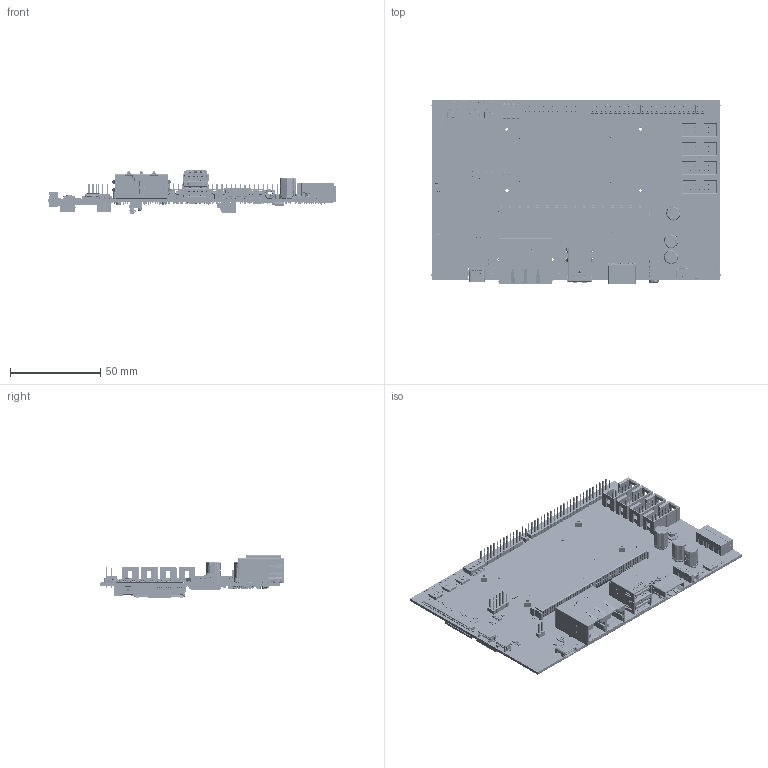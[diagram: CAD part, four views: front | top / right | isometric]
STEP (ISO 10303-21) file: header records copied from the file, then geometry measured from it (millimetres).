
FILE_DESCRIPTION(/* description */ ('PCB Design'),/* implementation_level */ '2;1');
FILE_NAME(/* name */ 'FSSMBB_REV110',/* time_stamp */ '2024-09-05T11:38:10+02:00',/* author */ (''),/* organization */ (''),/* preprocessor_version */ 'ST-DEVELOPER v16',/* originating_system */ 'allegro_22.1S005',/* authorisation */ '');
FILE_SCHEMA (('AP242_MANAGED_MODEL_BASED_3D_ENGINEERING_MIM_LF { 1 0 10303 442 1 1 4 }'));
Length unit declared in the file: millimetre
Products named in the file (275): FSSMBB_REV110; BOARD_OUTLINE; COMPONENTS; FS_RN0402X4_2X1; FS_J_1P0_15POS_SFW15R-1; FS_SOT416; FS_J_USB_TYPE_C_HOR_THT; FS_J_0P5_314POS_MXM3; FS_SW_DIP-4_11P1X9P8; FS_J_RJ45_LAN_2X1_TRJG27440ADNL; FS_J_MINIPCI-EXPRESS_LATCH; FS_J_3P81_05POS_TB_HOR; FS_J_2P54_10POS_PIN_5X2_VER_SH; FS_J_NANOSIM_H; FS_J_SD_MICRO_PUSHPUSH; FS_J_2P54_02POS_PIN_2X1_VER; FS_J_2P54_10POS_PIN_5X2_VER; FS_J_USB30_TYPE_A_2X_HOR_THT; FS_J_1P0_30POS_MDF76GW; FS_J_1P25_04POS_DF13_HOR; FS_J_1P25_06POS_DF13_HOR; FS_J_0P5_28POS_FH41; FS_J_HDMI_19POS_HOR_SMD; FS_J_2P54_50POS_PIN_25X2_VER; FS_J_2P54_24POS_PIN_12X2_VER; FS_J_AUDIOJACK_4POS_HOR_SMD; FS_SW_TACTILE_6P5X6; FS_LED0603; FS_C_ELKO_THT8X11P5; FS_FIDUCIAL_100; FS_F1206; FS_QFN10_0P45_2X2; FS_R0402; FS_MLF4_0P65_1P2X1P2; FS_R0805; FS_C0603; FS_C0805; FS_L_LQS5040; FS_DFN8_0P65_3X3; FS_L0603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
Assembly tree (1050 placements, depth 5):
  FSSMBB_REV110
    BOARD_OUTLINE
    COMPONENTS
      FS_RN0402X4_2X1  x5
        User Library-741C083
      FS_J_1P0_15POS_SFW15R-1
        Volumenkörper1
      FS_SOT416  x7
        SOT416P100X140X80-3
          Component1
          Component2
          Component3
          Component4
      FS_J_USB_TYPE_C_HOR_THT
        fs_j_usb_type_c_hor_tht
          Component1
      FS_J_0P5_314POS_MXM3
        fs_j_0p5_314pos_MXM3
          upper_contact  x156
          lower_contact  x158
          MXM55HOUSING
          Metal_ear
      FS_SW_DIP-4_11P1X9P8
        fs_sw_dip-4_11p1x9p8
          Actuator  x4
          Contact  x4
          Base 04
          Cover 04
          Terminal_front  x4
          Terminal_back  x4
      FS_J_RJ45_LAN_2X1_TRJG27440ADNL
        fs_j_rj45_lan_2x1_trjg27440adnl
          fs_j_rj45_lan_2x1_trjg27440adnl
          LED
          schwarz
      FS_J_MINIPCI-EXPRESS_LATCH
        fs_j_minipci-express_latch
          Component2
          Pins
      FS_J_3P81_05POS_TB_HOR
        TB5-381mm-2044x902-90
          Component1
          Component2
          Component3
          Component4
          Component5
          Component6
          Component7
      FS_J_2P54_10POS_PIN_5X2_VER_SH  x4
        fs_j_2p54_24pos_pin_5x2_ver_sh
          6120xx21621_PIN  x10
          61201021621
      FS_J_NANOSIM_H
        fs_j_nanosim_h
          _____1
          ____22^CS-0029-06140
      FS_J_SD_MICRO_PUSHPUSH
        sd-micro-we-693071010811
          693071010811
          693071010811_COULISSEAU
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Bounding box: 160.5 x 102 x 24.51 mm (x, y, z)
Volume: 15868.5 mm3; surface area: 90260.7 mm2
Topology: 1529 solids, 1978 shells, 57649 faces, 158174 edges, 103199 vertices
Faces by surface type: plane 40041, cylinder 14284, torus 1191, bspline 1016, sphere 771, cone 247, extrusion 99
Full cylindrical faces by diameter (mm): 0.083 x1, 2.013 x4, 3.5 x4, 5.1 x4
Entity records: 1082853 total; most frequent: CARTESIAN_POINT 188026, ORIENTED_EDGE 141272, DIRECTION 134129, EDGE_CURVE 73400, VECTOR 62208, LINE 62109, VERTEX_POINT 49334, AXIS2_PLACEMENT_3D 37746
